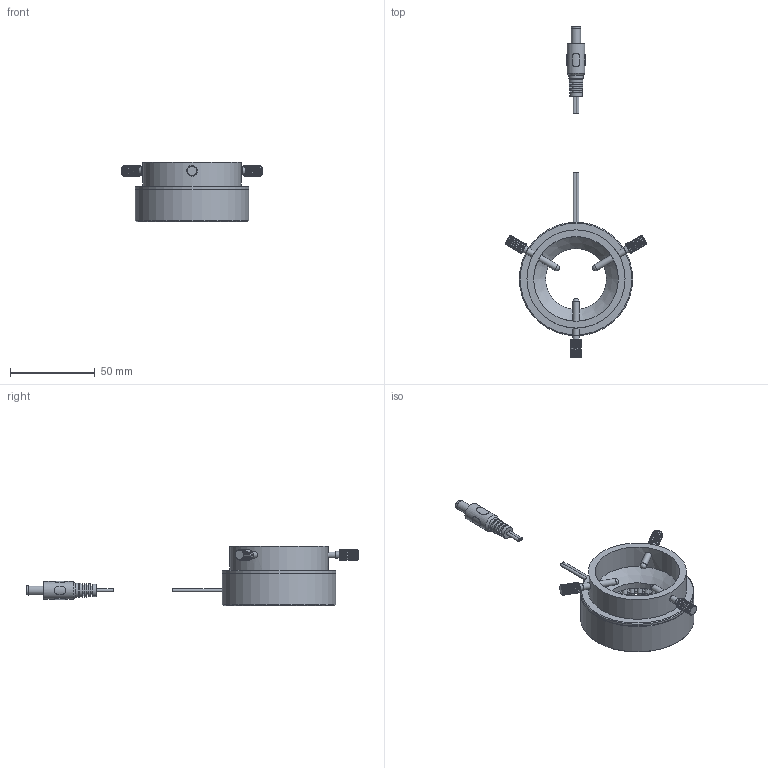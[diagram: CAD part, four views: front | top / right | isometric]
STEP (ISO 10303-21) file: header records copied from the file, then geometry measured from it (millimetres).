
FILE_DESCRIPTION(('STEP AP214'),'1');
FILE_NAME('GR96-N2.stp','2023-07-28T08:30:40',(' '),(' '),'Spatial InterOp 3D',' ',' ');
FILE_SCHEMA(('AUTOMOTIVE_DESIGN { 1 0 10303 214 1 1 1 1 }'));
Length unit declared in the file: metre
Products named in the file (3): GR96-N2; Component1; Component2
Assembly tree (2 placements, depth 2):
  GR96-N2
    Component1
    Component2
Bounding box: 83.64 x 196.2 x 35 mm (x, y, z)
Volume: 53225.3 mm3; surface area: 22842.3 mm2
Topology: 2 solids, 2 shells, 1116 faces, 2767 edges, 1680 vertices
Faces by surface type: plane 842, cylinder 145, sphere 99, cone 29, torus 1
Full cylindrical faces by diameter (mm): 3 x96, 3.6 x1, 3.8 x6, 4.1 x3, 5.4 x1, 5.5 x1, 5.9 x6, 10.5 x1, 36 x1, 50 x1, 58 x1, 60 x1, 67 x2
Entity records: 42571 total; most frequent: CARTESIAN_POINT 10249, DIRECTION 4875, ORIENTED_EDGE 4442, EDGE_CURVE 2221, AXIS2_PLACEMENT_3D 1678, LINE 1519, VECTOR 1519, EDGE_LOOP 1381
